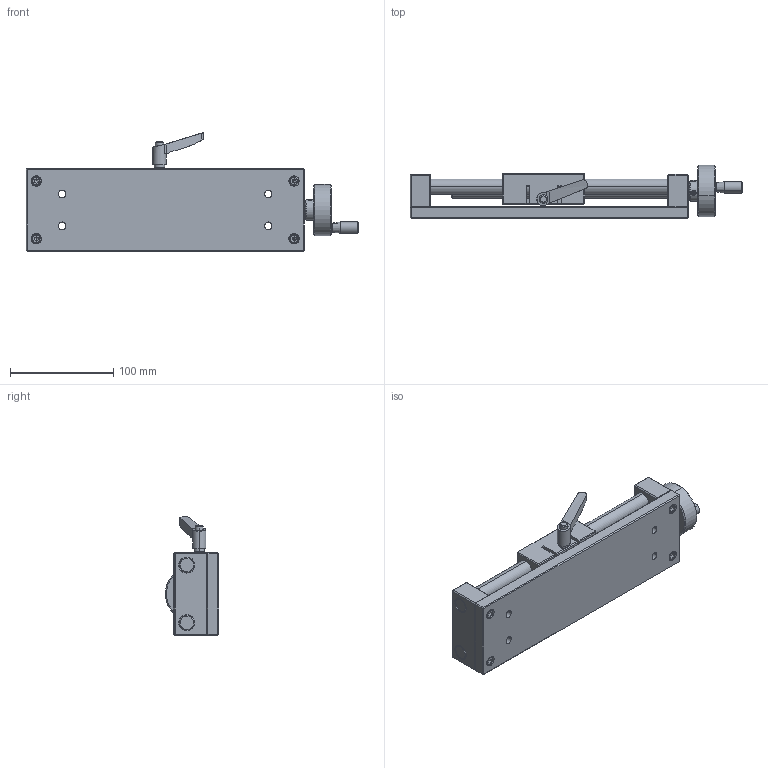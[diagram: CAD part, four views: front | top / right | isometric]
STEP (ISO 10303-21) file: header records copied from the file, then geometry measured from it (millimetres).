
FILE_DESCRIPTION (( 'STEP AP203' ), '1' );
FILE_NAME ('BKST150.STEP', '2024-02-28T02:57:42', ( 'China' ), ( 'Microsoft' ), 'SwSTEP 2.0', 'SolidWorks 2024', '' );
FILE_SCHEMA (( 'CONFIG_CONTROL_DESIGN' ));
Length unit declared in the file: millimetre
Products named in the file (1): BKST150
Bounding box: 322 x 51.97 x 114.77 mm (x, y, z)
Volume: 617200.3 mm3; surface area: 163130 mm2
Topology: 25 solids, 25 shells, 773 faces, 1866 edges, 1138 vertices
Faces by surface type: plane 375, cylinder 209, cone 169, torus 20
Entity records: 23363 total; most frequent: CARTESIAN_POINT 4954, DIRECTION 3992, ORIENTED_EDGE 3646, EDGE_CURVE 1823, AXIS2_PLACEMENT_3D 1450, VERTEX_POINT 1138, VECTOR 1092, LINE 1092
